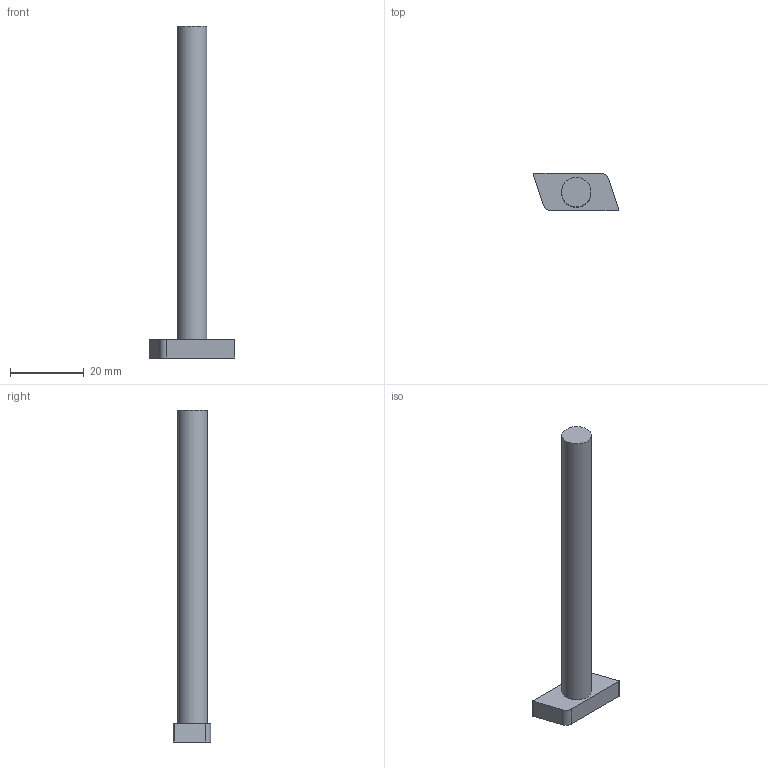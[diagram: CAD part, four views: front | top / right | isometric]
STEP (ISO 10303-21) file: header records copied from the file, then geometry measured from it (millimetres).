
FILE_DESCRIPTION(/* description */ ('T-BOLT 71 MM'),/* implementation_level */ '2;1');
FILE_NAME(/* name */ '\\carryline.intra\privat\users\mathias\Desktop\Tillfälliga filer\100-6098.stp',/* time_stamp */ '2018-11-26T10:48:42+01:00',/* author */ ('Henrik'),/* organization */ ('CARRYLINE'),/* preprocessor_version */ 'ST-DEVELOPER v17',/* originating_system */ 'Autodesk Inventor 2018',/* authorisation */ '');
FILE_SCHEMA (('AUTOMOTIVE_DESIGN { 1 0 10303 214 3 1 1 }'));
Length unit declared in the file: millimetre
Products named in the file (1): 100-6098
Bounding box: 23.21 x 10.11 x 90 mm (x, y, z)
Volume: 5279 mm3; surface area: 2839.8 mm2
Topology: 1 solids, 1 shells, 12 faces, 27 edges, 18 vertices
Faces by surface type: plane 7, cylinder 5
Full cylindrical faces by diameter (mm): 8 x1
Entity records: 380 total; most frequent: DIRECTION 63, CARTESIAN_POINT 58, ORIENTED_EDGE 54, EDGE_CURVE 27, AXIS2_PLACEMENT_3D 23, VERTEX_POINT 18, LINE 17, VECTOR 17
